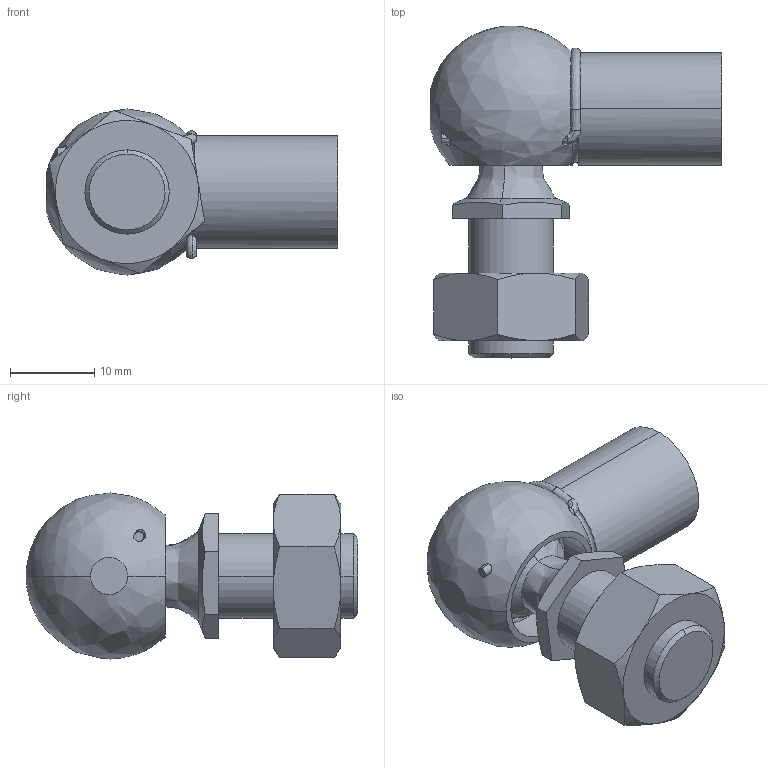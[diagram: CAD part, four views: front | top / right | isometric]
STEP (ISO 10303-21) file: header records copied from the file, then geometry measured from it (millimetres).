
FILE_DESCRIPTION (( 'STEP AP214' ), '1' );
FILE_NAME ('13CS13M8M10L25.STEP', '2017-10-27T12:40:44', ( '' ), ( '' ), 'SwSTEP 2.0', 'SolidWorks 2016', '' );
FILE_SCHEMA (( 'AUTOMOTIVE_DESIGN' ));
Length unit declared in the file: millimetre
Products named in the file (1): 13CS13M8M10L25
Bounding box: 34.6 x 39.35 x 19.7 mm (x, y, z)
Volume: 8401.2 mm3; surface area: 4734.3 mm2
Topology: 2 solids, 2 shells, 87 faces, 224 edges, 135 vertices
Faces by surface type: bspline 31, plane 24, cone 20, cylinder 12
Entity records: 9419 total; most frequent: CARTESIAN_POINT 6728, ORIENTED_EDGE 432, DIRECTION 316, EDGE_CURVE 216, AXIS2_PLACEMENT_3D 137, VERTEX_POINT 135, EDGE_LOOP 95, B_SPLINE_CURVE_WITH_KNOTS 90
